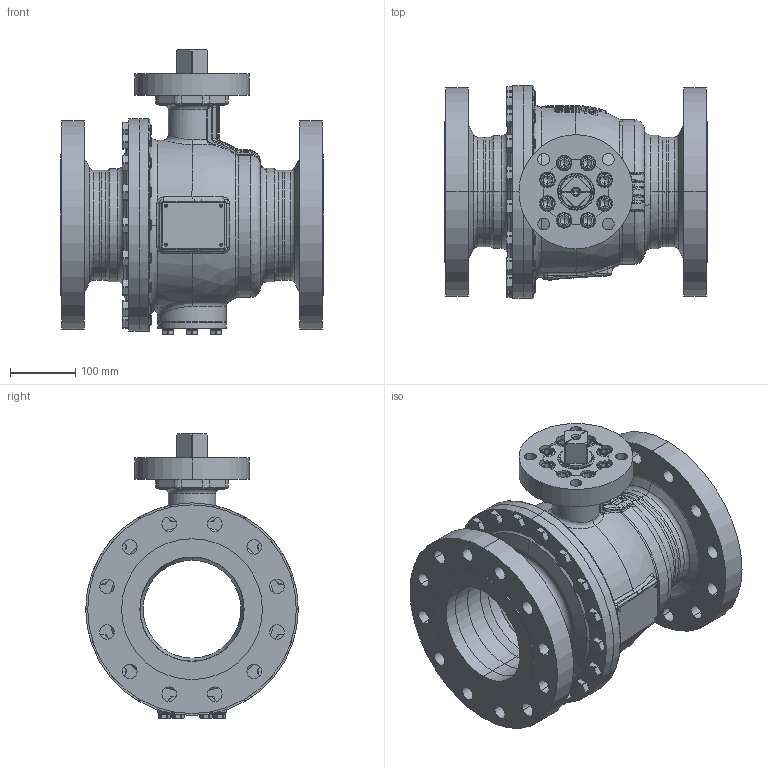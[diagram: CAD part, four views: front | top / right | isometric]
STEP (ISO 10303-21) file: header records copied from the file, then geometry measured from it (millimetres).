
FILE_DESCRIPTION((''),'2;1');
FILE_NAME('KHI-F_150_CL300-F14-4_SW0001','2026-02-05T11:10:44',('fischerkl'),('KLINGER'),'CREO PARAMETRIC BY PTC INC, 2023014','CREO PARAMETRIC BY PTC INC, 2023014','');
FILE_SCHEMA(('CONFIG_CONTROL_DESIGN'));
Products named in the file (1): KHI-F_150_CL300-F14-4_SW0001
Bounding box: 403 x 326 x 436.2 mm (x, y, z)
Volume: 10202963.9 mm3; surface area: 1679143.7 mm2
Topology: 1 solids, 4 shells, 3747 faces, 9618 edges, 6002 vertices
Faces by surface type: plane 2284, cylinder 694, cone 370, torus 258, bspline 113, sphere 28
Entity records: 145292 total; most frequent: CARTESIAN_POINT 56476, ORIENTED_EDGE 19184, DIRECTION 17578, EDGE_CURVE 9592, AXIS2_PLACEMENT_3D 6211, VERTEX_POINT 6002, VECTOR 5156, LINE 5156
